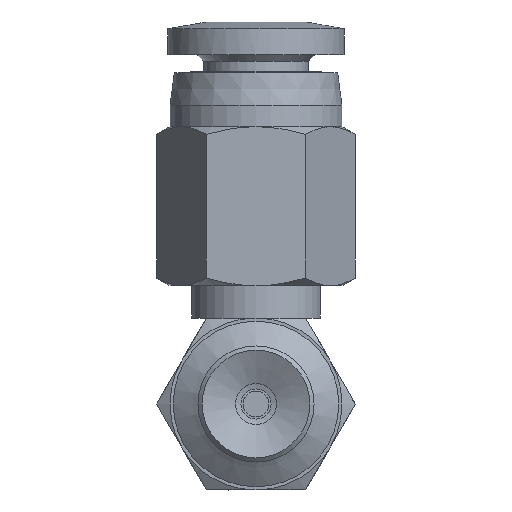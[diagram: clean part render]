
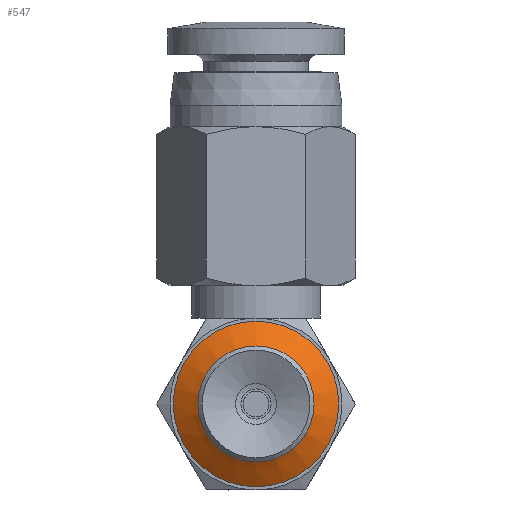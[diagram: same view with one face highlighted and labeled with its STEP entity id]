
A CAD part, front view. The second image highlights one B-rep face of the part: STEP entity #547.
In plain terms, the highlighted conical face has half-angle 55 degrees and reference radius 1.794 mm.
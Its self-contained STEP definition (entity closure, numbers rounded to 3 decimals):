
#547=ADVANCED_FACE('',(#833,#834),#835,.T.);
#833=FACE_BOUND('',#1224,.T.);
#834=FACE_OUTER_BOUND('',#1225,.T.);
#835=CONICAL_SURFACE('',#1226,1.794,0.96);
#1224=EDGE_LOOP('',(#2263));
#1225=EDGE_LOOP('',(#2264));
#1226=AXIS2_PLACEMENT_3D('',#2265,#2266,#2267);
#2263=ORIENTED_EDGE('',*,*,#2824,.T.);
#2264=ORIENTED_EDGE('',*,*,#2821,.T.);
#2265=CARTESIAN_POINT('',(0.0,7.118,0.));
#2266=DIRECTION('',(0.0,1.0,0.));
#2267=DIRECTION('',(0.0,0.,1.0));
#2821=EDGE_CURVE('',#3209,#3209,#3210,.T.);
#2824=EDGE_CURVE('',#3215,#3215,#3216,.T.);
#3209=VERTEX_POINT('',#4047);
#3210=CIRCLE('',#4048,3.85);
#3215=VERTEX_POINT('',#4053);
#3216=CIRCLE('',#4054,2.114);
#4047=CARTESIAN_POINT('',(0.0,8.558,-3.85));
#4048=AXIS2_PLACEMENT_3D('',#4738,#4739,#4740);
#4053=CARTESIAN_POINT('',(0.0,7.342,2.114));
#4054=AXIS2_PLACEMENT_3D('',#4747,#4748,#4749);
#4738=CARTESIAN_POINT('',(0.0,8.558,0.));
#4739=DIRECTION('',(0.0,-1.0,0.));
#4740=DIRECTION('',(0.0,0.,-1.0));
#4747=CARTESIAN_POINT('',(0.0,7.342,0.));
#4748=DIRECTION('',(0.0,1.0,0.));
#4749=DIRECTION('',(0.0,0.,1.0));
